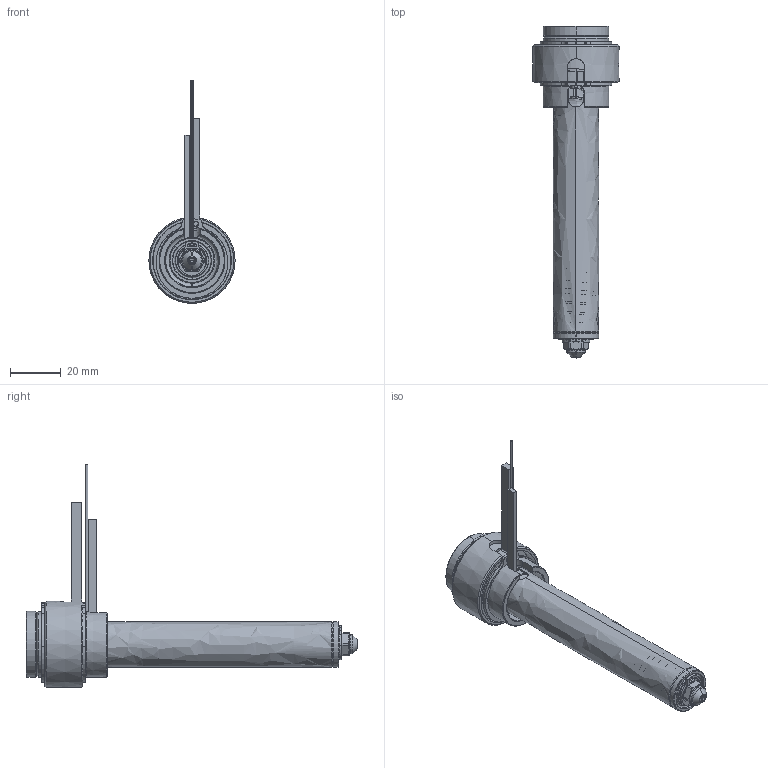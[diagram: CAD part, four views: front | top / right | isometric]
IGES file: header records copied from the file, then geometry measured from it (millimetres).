
Start section: SolidWorks IGES file using analytic representation for surfaces
Global section: file name: C:\Documents and Settings\ws-20\Desktop\TEM\UGER2504-S-A-1 [Øb-1.90 ØC-4.0].IGS; native system: SolidWorks 2012; preprocessor: SolidWorks 2012; author: ws-20; date: 120405.102155; units: millimetre
Bounding box: 34 x 130.9 x 87.9 mm (x, y, z)
Surface area: 21586.4 mm2 (no closed solid volume)
Topology: 0 solids, 0 shells, 195 faces, 2461 edges, 2459 vertices
Faces by surface type: revolution 126, bspline 69
